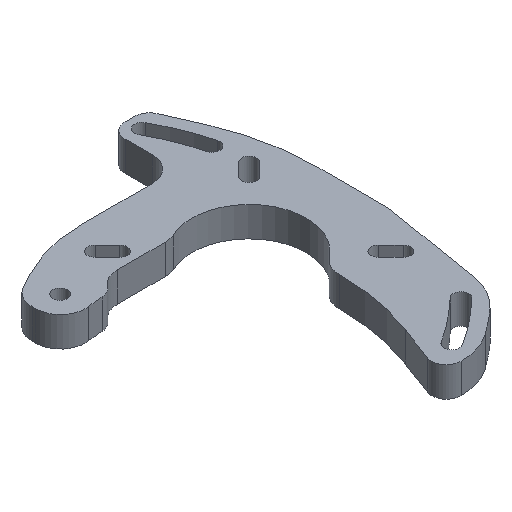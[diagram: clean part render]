
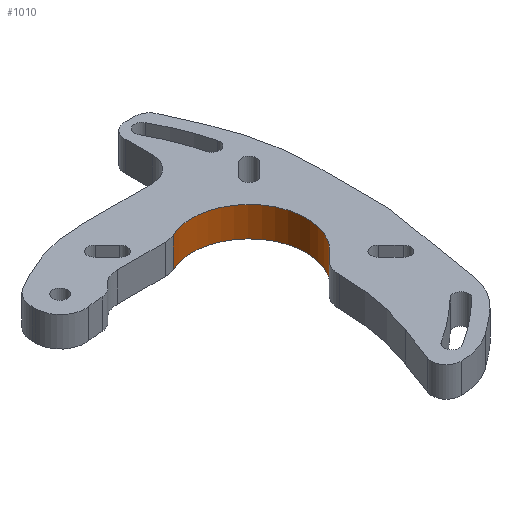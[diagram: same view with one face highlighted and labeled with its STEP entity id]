
A CAD part, isometric view. The second image highlights one B-rep face of the part: STEP entity #1010.
In plain terms, the highlighted cylindrical face has radius 11.5 mm (diameter 23 mm), a partial arc.
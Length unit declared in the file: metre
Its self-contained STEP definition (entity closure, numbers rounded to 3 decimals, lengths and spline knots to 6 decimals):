
#79=LINE('',#1658,#163);
#80=LINE('',#1662,#164);
#163=VECTOR('',#1310,1.);
#164=VECTOR('',#1313,1.);
#275=ORIENTED_EDGE('',*,*,#571,.F.);
#276=ORIENTED_EDGE('',*,*,#572,.T.);
#277=ORIENTED_EDGE('',*,*,#573,.T.);
#278=ORIENTED_EDGE('',*,*,#574,.T.);
#571=EDGE_CURVE('',#715,#716,#777,.T.);
#572=EDGE_CURVE('',#715,#717,#79,.F.);
#573=EDGE_CURVE('',#717,#718,#778,.T.);
#574=EDGE_CURVE('',#718,#716,#80,.T.);
#715=VERTEX_POINT('',#1656);
#716=VERTEX_POINT('',#1657);
#717=VERTEX_POINT('',#1659);
#718=VERTEX_POINT('',#1661);
#777=CIRCLE('',#1097,0.0115);
#778=CIRCLE('',#1098,0.0115);
#844=EDGE_LOOP('',(#275,#276,#277,#278));
#910=FACE_BOUND('',#844,.T.);
#967=CYLINDRICAL_SURFACE('',#1096,0.0115);
#1010=ADVANCED_FACE('',(#910),#967,.F.);
#1096=AXIS2_PLACEMENT_3D('',#1654,#1306,#1307);
#1097=AXIS2_PLACEMENT_3D('',#1655,#1308,#1309);
#1098=AXIS2_PLACEMENT_3D('',#1660,#1311,#1312);
#1306=DIRECTION('',(0.,0.,-1.));
#1307=DIRECTION('',(-1.,0.,0.));
#1308=DIRECTION('',(0.,0.,1.));
#1309=DIRECTION('',(1.,0.,0.));
#1310=DIRECTION('',(0.,0.,-1.));
#1311=DIRECTION('',(0.,0.,1.));
#1312=DIRECTION('',(1.,0.,0.));
#1313=DIRECTION('',(0.,0.,-1.));
#1654=CARTESIAN_POINT('',(0.,0.,0.006));
#1655=CARTESIAN_POINT('',(0.,0.,0.));
#1656=CARTESIAN_POINT('',(0.00697,-0.009147,0.));
#1657=CARTESIAN_POINT('',(-0.004791,0.010455,0.));
#1658=CARTESIAN_POINT('',(0.00697,-0.009147,0.006));
#1659=CARTESIAN_POINT('',(0.00697,-0.009147,0.006));
#1660=CARTESIAN_POINT('',(0.,0.,0.006));
#1661=CARTESIAN_POINT('',(-0.004791,0.010455,0.006));
#1662=CARTESIAN_POINT('',(-0.004791,0.010455,0.006));
